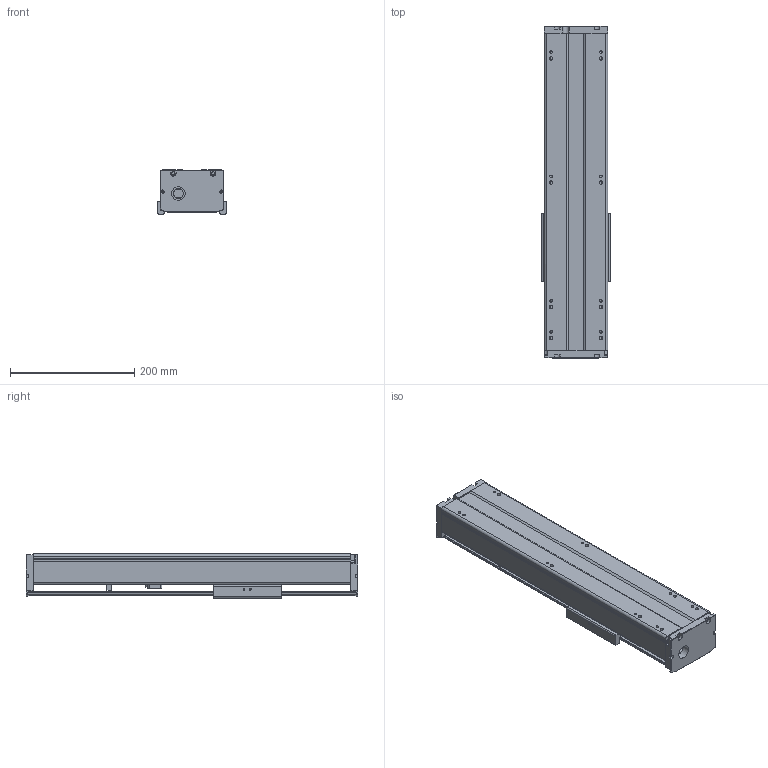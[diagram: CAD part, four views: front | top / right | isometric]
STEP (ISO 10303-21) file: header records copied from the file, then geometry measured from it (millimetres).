
FILE_DESCRIPTION(/* description */ (''),/* implementation_level */ '2;1');
FILE_NAME(/* name */ 'TKA100-150A1FI_asm1.stp',/* time_stamp */ '2017-02-21T08:18:12+08:00',/* author */ (''),/* organization */ (''),/* preprocessor_version */ 'ST-DEVELOPER v15',/* originating_system */ 'SIEMENS PLM Software NX 8.5',/* authorisation */ '');
FILE_SCHEMA (('AUTOMOTIVE_DESIGN { 1 0 10303 214 3 1 1 1 }'));
Length unit declared in the file: millimetre
Products named in the file (3): 200-02; 200-01; TKA100-150A1FI_asm1_stp
Assembly tree (2 placements, depth 2):
  TKA100-150A1FI_asm1_stp
    200-01
    200-02
Bounding box: 110 x 534 x 71 mm (x, y, z)
Volume: 1322502.6 mm3; surface area: 417413.9 mm2
Topology: 2 solids, 9 shells, 839 faces, 2164 edges, 1371 vertices
Faces by surface type: plane 355, cylinder 279, cone 145, torus 34, bspline 26
Full cylindrical faces by diameter (mm): 2.5 x4, 2.6 x8, 3.3 x8, 3.4 x4, 3.8 x4, 4.2 x17, 4.3 x4, 4.5 x4, 5 x1, 5.5 x20, 6.6 x4, 8 x5, 9 x4, 10 x8, 11 x4, 12 x7, 15.3 x1, 16 x1, 22 x1, 24 x1, 28 x5, 30 x1
Entity records: 30006 total; most frequent: CARTESIAN_POINT 10436, DIRECTION 4062, ORIENTED_EDGE 3818, EDGE_CURVE 1909, AXIS2_PLACEMENT_3D 1560, VERTEX_POINT 1304, EDGE_LOOP 1109, LINE 942
